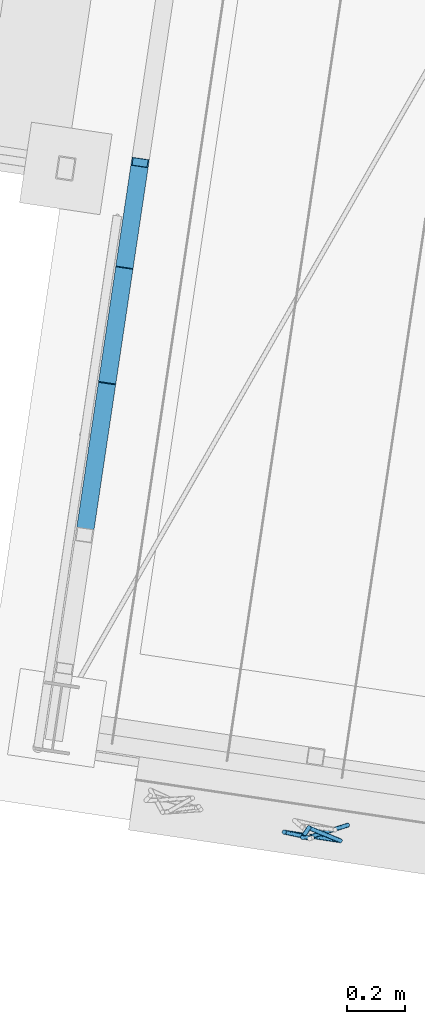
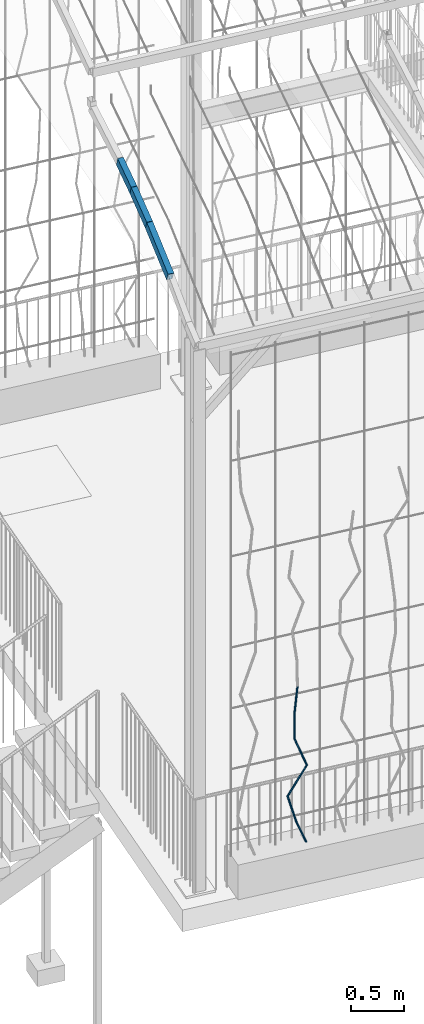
# One storey, part 108 of 143: 9 members, 2 elements without a shape of their own.
"""IFC4 building model written with IfcOpenShell, lengths in metres."""

from ifc_helpers import new_model, si_unit, direction, frame, origin_with_axes, place, context, subcontext, project, spatial, hollow_rectangle, circle, extrude, material, material_profile, profile_set, profile_usage, type_object, element, aggregate, save


model = new_model("IFC4")

# Units and contexts
model_context = context("Model", 3, precision=1e-05, world=origin_with_axes(), true_north=direction((0.0, 1.0)))
body_context = subcontext(model_context, "Body", "Model", "MODEL_VIEW")
ifc_project = project(units=[si_unit("VOLUMEUNIT", "CUBIC_METRE"), si_unit("LENGTHUNIT", "METRE"), si_unit("AREAUNIT", "SQUARE_METRE")], contexts=[model_context])

# Site, building, storey
site_placement = place(None, origin_with_axes())
site = spatial("IfcSite", under=ifc_project, at=site_placement, Name="Lares · Rua das Mercês · artigo 4771")
building_placement = place(site_placement, frame((15.0, 9.7, 15.8), z_axis=(0.0, 0.0, 1.0), x_axis=(0.989015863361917, -0.147809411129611, 0.0)))
building = spatial("IfcBuilding", under=site, at=building_placement, Name="Casa Sobreposta")
storey_placement = place(building_placement, origin_with_axes())
storey = spatial("IfcBuildingStorey", under=building, at=storey_placement, Name="00 · Habitação e estacionamento", Elevation=15.8)

# Assembly, members
assembly_1_placement = place(storey_placement, origin_with_axes())
assembly_1 = element("IfcElementAssembly", 1, at=assembly_1_placement, inside=storey, Name="Pérgola · prolongamento da estufa 6 m", ObjectType="PERGOLA_GREENHOUSE_EXTENSION", PredefinedType="USERDEFINED")
ifc_material_1 = material(Name="Aço pintado / Stahl lackiert", Category="steel")
ifc_material_profile_1 = material_profile(ifc_material_1, hollow_rectangle(XDim=0.06, YDim=0.1, WallThickness=0.004))
ifc_profile_set_1 = profile_set([ifc_material_profile_1], Name="RHS100x60x4")
ifc_profile_usage_1 = profile_usage(ifc_profile_set_1)
member_type_1 = type_object("IfcMemberType", Name="RHS100x60x4 / steel", PredefinedType="NOTDEFINED", material=ifc_profile_set_1)
member_1_placement = place(assembly_1_placement, frame((-6.0, -0.803062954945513, 6.57613537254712), z_axis=(0.0, 0.915885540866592, 0.401439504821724), x_axis=(1.0, 0.0, 0.0)))
member_1 = element("IfcMember", 2, at=member_1_placement, type_object=member_type_1, material=ifc_profile_usage_1, Name="Pérgola · arco contínuo com a estufa", context=body_context, shape_type="SweptSolid", body=[
    extrude(hollow_rectangle(XDim=0.06, YDim=0.1, WallThickness=0.004), origin_with_axes(), (0.0, 0.0, 1.0), 0.596771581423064),
])
ifc_profile_usage_2 = profile_usage(ifc_profile_set_1)
member_2_placement = place(assembly_1_placement, frame((-6.0, -0.256488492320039, 6.81570306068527), z_axis=(0.0, 0.942820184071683, 0.333301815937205), x_axis=(1.0, 0.0, 0.0)))
member_2 = element("IfcMember", 3, at=member_2_placement, type_object=member_type_1, material=ifc_profile_usage_2, Name="Pérgola · arco contínuo com a estufa", context=body_context, shape_type="SweptSolid", body=[
    extrude(hollow_rectangle(XDim=0.06, YDim=0.1, WallThickness=0.004), origin_with_axes(), (0.0, 0.0, 1.0), 0.423025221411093),
])
ifc_profile_usage_3 = profile_usage(ifc_profile_set_1)
member_3_placement = place(assembly_1_placement, frame((-6.0, 0.142348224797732, 6.95669813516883), z_axis=(0.0, 0.959692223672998, 0.281053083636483), x_axis=(1.0, 0.0, 0.0)))
member_3 = element("IfcMember", 4, at=member_3_placement, type_object=member_type_1, material=ifc_profile_usage_3, Name="Pérgola · arco contínuo com a estufa", context=body_context, shape_type="SweptSolid", body=[
    extrude(hollow_rectangle(XDim=0.06, YDim=0.1, WallThickness=0.004), origin_with_axes(), (0.0, 0.0, 1.0), 0.365557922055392),
])
aggregate(assembly_1, [member_1, member_2, member_3])

assembly_2_placement = place(storey_placement, origin_with_axes())
assembly_2 = element("IfcElementAssembly", 5, at=assembly_2_placement, inside=storey, Name="Fachada sul e pátio · estrutura e trepadeiras", ObjectType="LIVING_SHADE_TRELLIS", PredefinedType="USERDEFINED")
ifc_material_2 = material(Name="Ramos de trepadeiras", Category="wood")
ifc_material_profile_2 = material_profile(ifc_material_2, circle(Radius=0.0075))
ifc_profile_set_2 = profile_set([ifc_material_profile_2], Name="D0.015")
ifc_profile_usage_4 = profile_usage(ifc_profile_set_2)
member_type_2 = type_object("IfcMemberType", Name="D0.015 / vine_wood", PredefinedType="NOTDEFINED", material=ifc_profile_set_2)
member_4_placement = place(assembly_2_placement, frame((-4.95624243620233, -1.65711223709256, 0.35), z_axis=(-0.372606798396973, -0.180190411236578, 0.910327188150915), x_axis=(-0.435358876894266, 0.90025699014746, 0.0)))
member_4 = element("IfcMember", 6, at=member_4_placement, type_object=member_type_2, material=ifc_profile_usage_4, Name="Trepadeiras · ramo", context=body_context, shape_type="SweptSolid", body=[
    extrude(circle(Radius=0.0075), origin_with_axes(), (0.0, 0.0, 1.0), 0.340683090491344),
])
ifc_profile_usage_5 = profile_usage(ifc_profile_set_2)
member_5_placement = place(assembly_2_placement, frame((-5.0831832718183, -1.71850006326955, 0.660133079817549), z_axis=(-0.265741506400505, 0.0171143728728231, 0.963892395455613), x_axis=(0.0642691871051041, 0.997932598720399, 0.0)))
member_5 = element("IfcMember", 7, at=member_5_placement, type_object=member_type_2, material=ifc_profile_usage_5, Name="Trepadeiras · ramo", context=body_context, shape_type="SweptSolid", body=[
    extrude(circle(Radius=0.0075), origin_with_axes(), (0.0, 0.0, 1.0), 0.321750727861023),
])
ifc_profile_usage_6 = profile_usage(ifc_profile_set_2)
member_6_placement = place(assembly_2_placement, frame((-5.16868579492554, -1.71299350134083, 0.970266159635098), z_axis=(0.532535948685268, -0.00176824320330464, 0.84640553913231), x_axis=(-0.00332040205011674, -0.999994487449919, 0.0)))
member_6 = element("IfcMember", 8, at=member_6_placement, type_object=member_type_2, material=ifc_profile_usage_6, Name="Trepadeiras · ramo", context=body_context, shape_type="SweptSolid", body=[
    extrude(circle(Radius=0.0075), origin_with_axes(), (0.0, 0.0, 1.0), 0.366411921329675),
])
ifc_profile_usage_7 = profile_usage(ifc_profile_set_2)
member_7_placement = place(assembly_2_placement, frame((-4.97355827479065, -1.71364140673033, 1.28039923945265), z_axis=(-0.342385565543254, 0.0839938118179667, 0.935797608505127), x_axis=(0.238254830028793, 0.971202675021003, 0.0)))
member_7 = element("IfcMember", 9, at=member_7_placement, type_object=member_type_2, material=ifc_profile_usage_7, Name="Trepadeiras · ramo", context=body_context, shape_type="SweptSolid", body=[
    extrude(circle(Radius=0.0075), origin_with_axes(), (0.0, 0.0, 1.0), 0.331410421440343),
])
ifc_profile_usage_8 = profile_usage(ifc_profile_set_2)
member_8_placement = place(assembly_2_placement, frame((-5.08702841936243, -1.68580498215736, 1.5905323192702), z_axis=(-0.0515930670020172, -0.113887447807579, 0.992153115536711), x_axis=(-0.910889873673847, 0.412649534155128, 0.0)))
member_8 = element("IfcMember", 10, at=member_8_placement, type_object=member_type_2, material=ifc_profile_usage_8, Name="Trepadeiras · ramo", context=body_context, shape_type="SweptSolid", body=[
    extrude(circle(Radius=0.0075), origin_with_axes(), (0.0, 0.0, 1.0), 0.312585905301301),
])
ifc_profile_usage_9 = profile_usage(ifc_profile_set_2)
member_9_placement = place(assembly_2_placement, frame((-5.10315568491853, -1.72140459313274, 1.90066539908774), z_axis=(0.1015760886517, 0.00912740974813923, 0.994785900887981), x_axis=(0.0894972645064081, -0.995987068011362, 0.0)))
member_9 = element("IfcMember", 11, at=member_9_placement, type_object=member_type_2, material=ifc_profile_usage_9, Name="Trepadeiras · ramo", context=body_context, shape_type="SweptSolid", body=[
    extrude(circle(Radius=0.0075), origin_with_axes(), (0.0, 0.0, 1.0), 0.3117586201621),
])
aggregate(assembly_2, [member_4, member_5, member_6, member_7, member_8, member_9])

save(model, "model.ifc")
